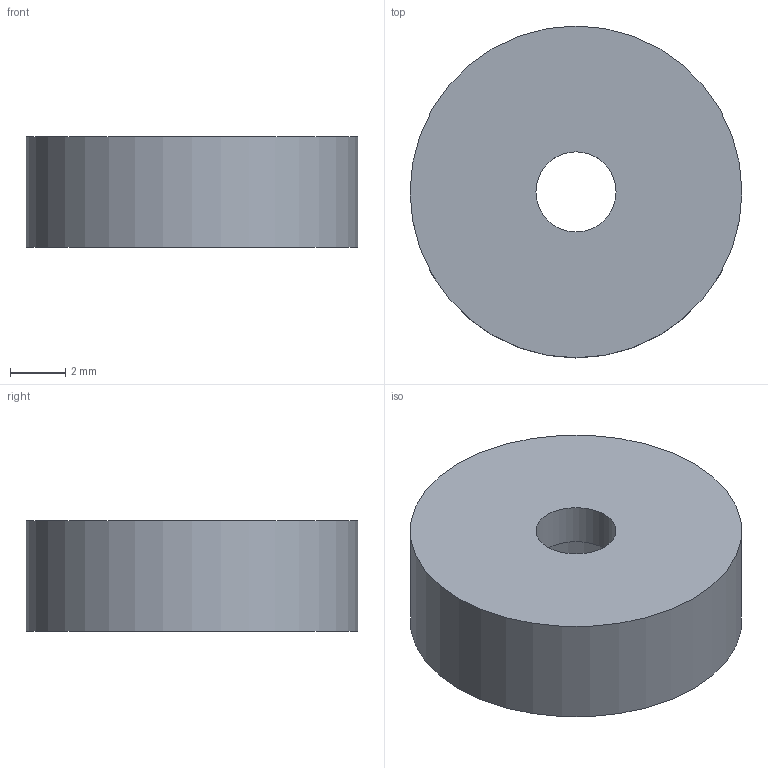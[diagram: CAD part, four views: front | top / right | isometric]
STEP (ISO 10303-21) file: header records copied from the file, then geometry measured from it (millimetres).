
FILE_DESCRIPTION(('Open CASCADE Model'),'2;1');
FILE_NAME('Open CASCADE Shape Model','2026-08-29T07:31:46',('Author'),( 'Open CASCADE'),'Open CASCADE STEP processor 7.9','build123d', 'Unknown');
FILE_SCHEMA(('AUTOMOTIVE_DESIGN { 1 0 10303 214 1 1 1 1 }'));
Length unit declared in the file: millimetre
Products named in the file (2): =>[0:1:1:2]; COMPOUND
Assembly tree (1 placements, depth 2):
  =>[0:1:1:2]
    COMPOUND
Bounding box: 12 x 12 x 4 mm (x, y, z)
Volume: 357 mm3; surface area: 429.3 mm2
Topology: 1 solids, 1 shells, 6 faces, 9 edges, 6 vertices
Faces by surface type: cylinder 3, plane 3
Full cylindrical faces by diameter (mm): 2.9 x1, 6.6 x1, 12 x1
Entity records: 288 total; most frequent: DIRECTION 49, CARTESIAN_POINT 41, ORIENTED_EDGE 18, PCURVE 18, DEFINITIONAL_REPRESENTATION 18, LINE 15, VECTOR 15, AXIS2_PLACEMENT_3D 14
